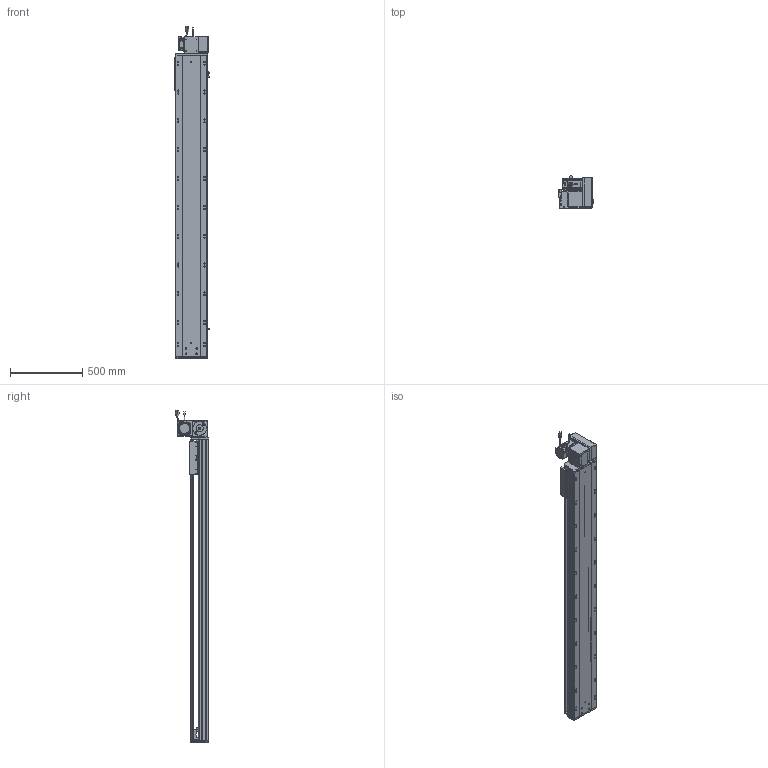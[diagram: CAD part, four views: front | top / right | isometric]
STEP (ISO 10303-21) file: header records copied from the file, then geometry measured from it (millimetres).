
FILE_DESCRIPTION (( 'STEP AP203' ), '1' );
FILE_NAME ('RY220-T-300-UR.SLDASM_1750.step', '2022-07-25T08:44:21', ( '' ), ( '' ), 'SwSTEP 2.0', 'SolidWorks 2016', '' );
FILE_SCHEMA (( 'CONFIG_CONTROL_DESIGN' ));
Length unit declared in the file: millimetre
Products named in the file (14): RY220-T-300-UR.SLDASM_1750; RY220翋肮祭謫釱; 覜茼ん672; 110A-T-肮祭謫釱傷裔; RY220-T-湍謫欶(鍼踢); RY220-俋离672覜茼んえ; RY220-T菁釱-300_1750; RY220-T-蛌殏萇儂假蚾啣(750W); 怢湛750W_ECMA-CX0807ES; RY220-T-300-奻裔啣_1750; RY220翋肮祭謫裔啣; RY220圉猾敕々湍臏賑輸; RY220-同步轮副支撑座6304×2; 滅袉蝶18-15
Assembly tree (18 placements, depth 2):
  RY220-T-300-UR.SLDASM_1750
    RY220-T菁釱-300_1750
    RY220翋肮祭謫釱
    覜茼ん672  x3
    RY220圉猾敕々湍臏賑輸
    RY220-T-300-奻裔啣_1750
    RY220-俋离672覜茼んえ
    滅袉蝶18-15  x3
    RY220翋肮祭謫裔啣  x2
    110A-T-肮祭謫釱傷裔
    怢湛750W_ECMA-CX0807ES
    RY220-T-湍謫欶(鍼踢)
    RY220-T-蛌殏萇儂假蚾啣(750W)
    RY220-同步轮副支撑座6304×2
Bounding box: 238.7 x 231.74 x 2303.27 mm (x, y, z)
Volume: 17114230.1 mm3; surface area: 5162238.7 mm2
Topology: 19 solids, 19 shells, 2776 faces, 7667 edges, 4838 vertices
Faces by surface type: cylinder 1328, plane 1069, cone 297, bspline 56, sphere 16, torus 10
Entity records: 92435 total; most frequent: CARTESIAN_POINT 26245, ORIENTED_EDGE 13722, DIRECTION 13084, EDGE_CURVE 6861, AXIS2_PLACEMENT_3D 4666, VERTEX_POINT 4462, VECTOR 3752, LINE 3752
